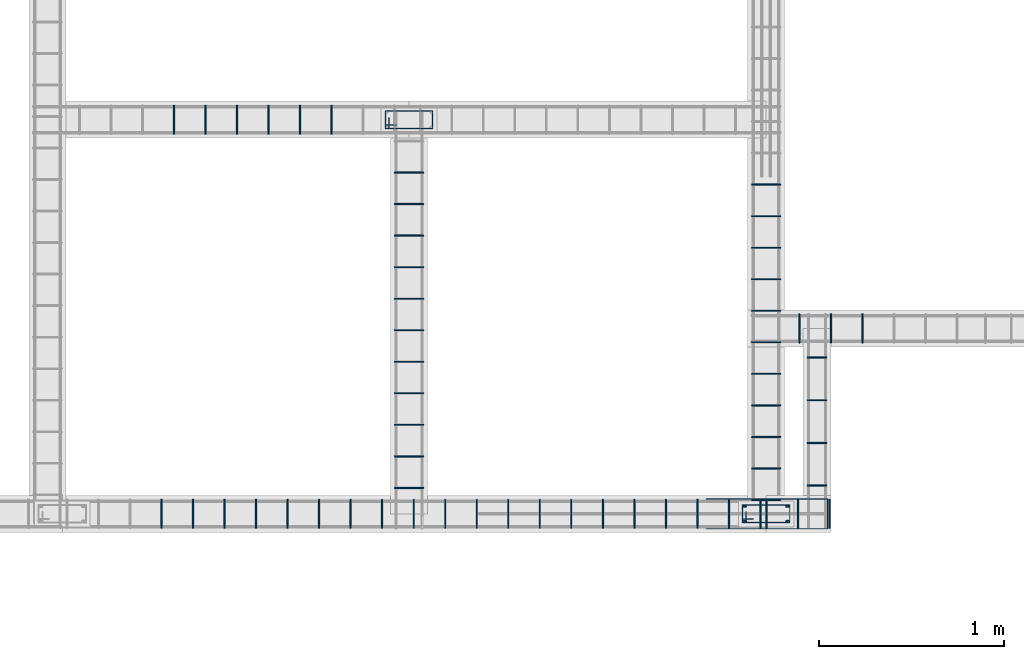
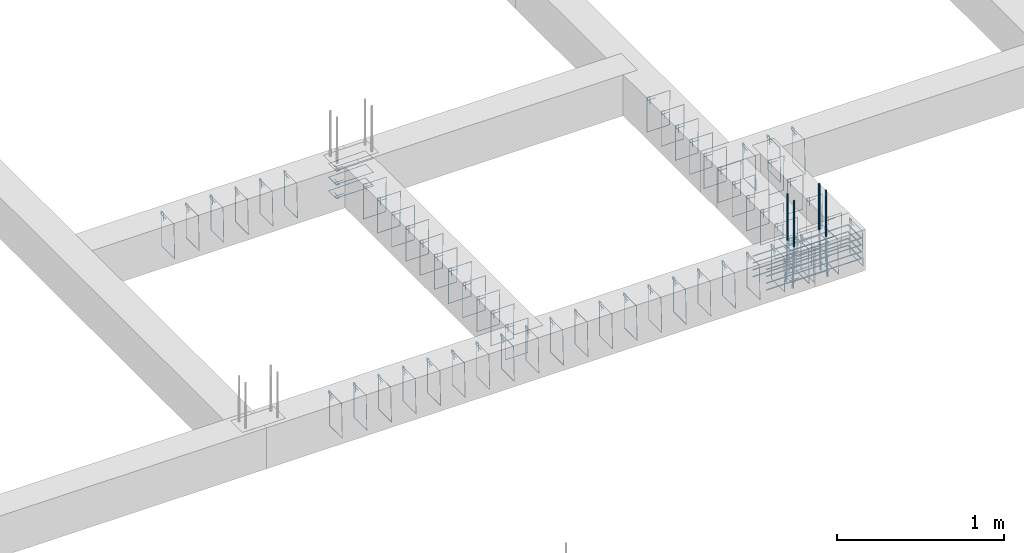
# One storey, part 46 of 150: 72 reinforcing bars.
"""IFC4 building model written with IfcOpenShell, lengths in centimetres."""

import ifcopenshell
import ifcopenshell.guid

model = None  # the IFC model being written
_history = None  # IfcOwnerHistory: only IFC2X3 demands one
_inside = {}  # id of a spatial element -> (the spatial element, [elements in it])
_under = {}  # id of a project, library or spatial element -> (it, [spatial elements below it])
_declared = {}  # id of a project -> (the project, [libraries it declares])
_typed = {}  # id of a type object -> (the type object, [elements of that type])
_made_of = {}  # id of a material, layer set ... -> (it, [elements and type objects made of it])


def new_model(schema):
    """Start an empty IFC model of exactly this schema.

    Asked for "IFC4X3", IfcOpenShell would pick the latest addendum, in which some entities
    have other attributes; the version numbers below select the first issue.
    IFC2X3 requires an IfcOwnerHistory on every rooted entity: one is made here for all.
    """
    global model, _history
    if schema == "IFC4X3":
        model = ifcopenshell.file(schema_version=(4, 3, 0, 0))
    else:
        model = ifcopenshell.file(schema=schema)
    _inside.clear()
    _under.clear()
    _declared.clear()
    _typed.clear()
    _made_of.clear()
    _history = None
    if model.schema == "IFC2X3":
        org = make("IfcOrganization", Name="unknown")
        user = make(
            "IfcPersonAndOrganization",
            ThePerson=make("IfcPerson", FamilyName="unknown"),
            TheOrganization=org,
        )
        app = make(
            "IfcApplication",
            ApplicationDeveloper=org,
            Version="unknown",
            ApplicationFullName="unknown",
            ApplicationIdentifier="unknown",
        )
        _history = make(
            "IfcOwnerHistory",
            OwningUser=user,
            OwningApplication=app,
            ChangeAction="ADDED",
            CreationDate=0,
        )
    return model


def make(cls, **values):
    """One entity of the class cls with the attributes given. An attribute that is None is left unset."""
    return model.create_entity(
        cls, **{name: value for name, value in values.items() if value is not None}
    )


def entity(cls, *values):
    """Any entity or typed value of the class cls, its attributes in the order of the schema. None: left unset."""
    e = model.create_entity(cls)
    for i, value in enumerate(values):
        if value is not None:
            e[i] = value
    return e


def rooted(cls, **values):
    """An entity with a GlobalId (a new one), such as an element, a storey or a relation."""
    return make(cls, GlobalId=ifcopenshell.guid.new(), OwnerHistory=_history, **values)


def si_unit(unit_type, name, prefix=None):
    """IfcSIUnit, for example si_unit("LENGTHUNIT", "METRE", prefix="MILLI")."""
    return make("IfcSIUnit", UnitType=unit_type, Prefix=prefix, Name=name)


def derived_unit(unit_type, elements):
    """IfcDerivedUnit: a product of units, each with its exponent."""
    return make(
        "IfcDerivedUnit",
        Elements=[
            make("IfcDerivedUnitElement", Unit=unit, Exponent=power)
            for unit, power in elements
        ],
        UnitType=unit_type,
    )


def assignment(units):
    """IfcUnitAssignment: the units of a project."""
    return None if units is None else make("IfcUnitAssignment", Units=units)


def point(xyz):
    """IfcCartesianPoint."""
    return None if xyz is None else make("IfcCartesianPoint", Coordinates=xyz)


def direction(xyz):
    """IfcDirection."""
    return None if xyz is None else make("IfcDirection", DirectionRatios=xyz)


def frame(location, z_axis=None, x_axis=None):
    """IfcAxis2Placement3D, a coordinate frame: its origin and axes. An axis left out is left unset."""
    return make(
        "IfcAxis2Placement3D",
        Location=point(location),
        Axis=direction(z_axis),
        RefDirection=direction(x_axis),
    )


def origin_with_axes():
    """The frame at (0, 0, 0) with the z axis (0, 0, 1) and the x axis (1, 0, 0) written out."""
    return frame((0.0, 0.0, 0.0), z_axis=(0.0, 0.0, 1.0), x_axis=(1.0, 0.0, 0.0))


def place(relative_to, where):
    """IfcLocalPlacement: puts the frame where relative to a parent placement (None: the world)."""
    return make(
        "IfcLocalPlacement", PlacementRelTo=relative_to, RelativePlacement=where
    )


def context(
    kind, dimensions, precision=None, world=None, true_north=None, identifier=None
):
    """IfcGeometricRepresentationContext, for example the 3D "Model" context."""
    return make(
        "IfcGeometricRepresentationContext",
        ContextIdentifier=identifier,
        ContextType=kind,
        CoordinateSpaceDimension=dimensions,
        Precision=precision,
        WorldCoordinateSystem=world,
        TrueNorth=true_north,
    )


def project(units=None, contexts=None):
    """IfcProject with its units and contexts."""
    return rooted(
        "IfcProject",
        Name="project",
        RepresentationContexts=contexts,
        UnitsInContext=assignment(units),
    )


def spatial(cls, under=None, at=None, **own):
    """A site, building, storey or space (cls), placed at a placement, below another one or the project."""
    s = rooted(cls, ObjectPlacement=at, **own)
    if under is not None:
        _under.setdefault(under.id(), (under, []))[1].append(s)
    return s


def shape(context_of_items, identifier, shape_type, items):
    """IfcShapeRepresentation: the items that make up one representation, for example the "Body"."""
    return make(
        "IfcShapeRepresentation",
        ContextOfItems=context_of_items,
        RepresentationIdentifier=identifier,
        RepresentationType=shape_type,
        Items=items,
    )


def source(mapping_origin, context_of_items, identifier, shape_type, items):
    """IfcRepresentationMap: a shape defined once, which mapped items show again and again."""
    return make(
        "IfcRepresentationMap",
        MappingOrigin=mapping_origin,
        MappedRepresentation=shape(context_of_items, identifier, shape_type, items),
    )


def transform(
    local_origin,
    x_axis=None,
    y_axis=None,
    z_axis=None,
    scale=None,
    scale2=None,
    scale3=None,
    uniform=True,
):
    """IfcCartesianTransformationOperator3D, or its non-uniform kind. x_axis, y_axis, z_axis: its Axis1, 2, 3."""
    if uniform:
        return make(
            "IfcCartesianTransformationOperator3D",
            Axis1=direction(x_axis),
            Axis2=direction(y_axis),
            LocalOrigin=point(local_origin),
            Scale=scale,
            Axis3=direction(z_axis),
        )
    return make(
        "IfcCartesianTransformationOperator3DnonUniform",
        Axis1=direction(x_axis),
        Axis2=direction(y_axis),
        LocalOrigin=point(local_origin),
        Scale=scale,
        Axis3=direction(z_axis),
        Scale2=scale2,
        Scale3=scale3,
    )


def mapped(mapping_source, mapping_target):
    """IfcMappedItem: shows the shape of a source again, moved by a transform."""
    return make(
        "IfcMappedItem", MappingSource=mapping_source, MappingTarget=mapping_target
    )


def made_of(thing, what):
    """Note that an element or type object is made of a material, layer set ...; save() writes the relation."""
    if what is not None:
        _made_of.setdefault(what.id(), (what, []))[1].append(thing)
    return thing


def element(
    cls,
    number,
    at=None,
    inside=None,
    cuts=None,
    type_object=None,
    material=None,
    context=None,
    identifier="Body",
    shape_type=None,
    held_by="IfcProductDefinitionShape",
    body=None,
    shapes=None,
    **own,
):
    """One element of the class cls, such as IfcWall. Its Tag is "e" and its number.

    at: its placement. inside: the storey or other place that contains it. cuts: it is an
    opening in that element (IfcRelVoidsElement). A single representation is given by context,
    identifier, shape_type and body (its items); several are given by shapes. held_by: the class
    of the entity that holds the representations. save() writes the other relations.
    """
    e = rooted(cls, Tag="e%d" % number, ObjectPlacement=at, **own)
    if body is not None:
        shapes = [shape(context, identifier, shape_type, body)]
    if shapes is not None:
        e.Representation = make(held_by, Representations=shapes)
    if inside is not None:
        _inside.setdefault(inside.id(), (inside, []))[1].append(e)
    if cuts is not None:
        rooted(
            "IfcRelVoidsElement", RelatingBuildingElement=cuts, RelatedOpeningElement=e
        )
    if type_object is not None:
        _typed.setdefault(type_object.id(), (type_object, []))[1].append(e)
    return made_of(e, material)


def aggregate(whole, parts):
    """IfcRelAggregates: a whole, such as a stair, and the parts it consists of."""
    return rooted("IfcRelAggregates", RelatingObject=whole, RelatedObjects=parts)


def save(model, path):
    """Write the relations noted so far, then the file.

    IfcRelAggregates (storeys below a building ...), IfcRelContainedInSpatialStructure (elements
    in a storey), IfcRelDefinesByType, IfcRelAssociatesMaterial and IfcRelDeclares: one each for
    every whole, place, type object, material and project.
    """
    for whole, parts in _under.values():
        aggregate(whole, parts)
    for where, things in _inside.values():
        rooted(
            "IfcRelContainedInSpatialStructure",
            RelatedElements=things,
            RelatingStructure=where,
        )
    for kind, things in _typed.values():
        rooted("IfcRelDefinesByType", RelatedObjects=things, RelatingType=kind)
    for what, things in _made_of.values():
        rooted("IfcRelAssociatesMaterial", RelatedObjects=things, RelatingMaterial=what)
    for by, libraries in _declared.values():
        rooted("IfcRelDeclares", RelatingContext=by, RelatedDefinitions=libraries)
    model.write(path)


model = new_model("IFC4")

# Units and contexts
model_context = context("Model", 3, precision=1e-05, world=origin_with_axes(), identifier="Body")
ifc_project = project(units=[si_unit("LENGTHUNIT", "METRE", prefix="CENTI"), si_unit("VOLUMEUNIT", "CUBIC_METRE"), si_unit("AREAUNIT", "SQUARE_METRE"), si_unit("POWERUNIT", "WATT"), si_unit("LUMINOUSFLUXUNIT", "LUMEN"), si_unit("ELECTRICCURRENTUNIT", "AMPERE"), si_unit("PRESSUREUNIT", "PASCAL", prefix="KILO"), si_unit("MASSUNIT", "GRAM", prefix="KILO"), si_unit("PLANEANGLEUNIT", "RADIAN"), derived_unit("VOLUMETRICFLOWRATEUNIT", [(si_unit("LENGTHUNIT", "METRE"), 3), (si_unit("TIMEUNIT", "SECOND"), -1)])], contexts=[model_context])

# Site, building, storey
site_placement = place(None, frame((-4000.0, 0.0, 0.0), z_axis=(0.0, 0.0, 1.0), x_axis=(1.0, 0.0, 0.0)))
site = spatial("IfcSite", under=ifc_project, at=site_placement, Name="PADRÃO")
building_placement = place(site_placement, frame((0.0, 0.0, -14.0)))
building = spatial("IfcBuilding", under=site, at=building_placement, Name="CRECHE PRÉ-ESCOLA TIPO 2")
placement = place(building_placement, origin_with_axes())
storey_placement = place(placement, frame((0.0, 0.0, 30.0), z_axis=(0.0, 0.0, 1.0), x_axis=(1.0, 0.0, 0.0)))
storey = spatial("IfcBuildingStorey", under=building, at=storey_placement, Name="VIGA BALDRAME", CompositionType="ELEMENT", Elevation=16.0)

# Reinforcing bars
shared_shape_1 = source(origin_with_axes(), model_context, "Body", "AdvancedSweptSolid", [
    entity("IfcSweptDiskSolid", entity("IfcCompositeCurve", [entity("IfcCompositeCurveSegment", "CONTINUOUS", True, entity("IfcPolyline", [entity("IfcCartesianPoint", [4.25, 21.75, 0.0]), entity("IfcCartesianPoint", [4.25, 27.75, 0.0])])), entity("IfcCompositeCurveSegment", "CONTINUOUS", True, entity("IfcPolyline", [entity("IfcCartesianPoint", [4.25, 27.75, 0.0]), entity("IfcCartesianPoint", [2.25, 27.75, 0.0])])), entity("IfcCompositeCurveSegment", "CONTINUOUS", True, entity("IfcPolyline", [entity("IfcCartesianPoint", [2.25, 27.75, 0.0]), entity("IfcCartesianPoint", [2.25, 2.25, 0.0])])), entity("IfcCompositeCurveSegment", "CONTINUOUS", True, entity("IfcPolyline", [entity("IfcCartesianPoint", [2.25, 2.25, 0.0]), entity("IfcCartesianPoint", [11.75, 2.25, 0.0])])), entity("IfcCompositeCurveSegment", "CONTINUOUS", True, entity("IfcPolyline", [entity("IfcCartesianPoint", [11.75, 2.25, 0.0]), entity("IfcCartesianPoint", [11.75, 27.75, -0.5])])), entity("IfcCompositeCurveSegment", "CONTINUOUS", True, entity("IfcPolyline", [entity("IfcCartesianPoint", [11.75, 27.75, -0.5]), entity("IfcCartesianPoint", [2.25, 27.75, -0.5])])), entity("IfcCompositeCurveSegment", "CONTINUOUS", True, entity("IfcPolyline", [entity("IfcCartesianPoint", [2.25, 27.75, -0.5]), entity("IfcCartesianPoint", [2.25, 25.75, -0.5])])), entity("IfcCompositeCurveSegment", "CONTINUOUS", True, entity("IfcPolyline", [entity("IfcCartesianPoint", [2.25, 25.75, -0.5]), entity("IfcCartesianPoint", [8.25, 25.75, -0.5])]))], False), 0.25),
])
for number, where, z_axis, x_axis, name in (
    (1, (3151.0, 408.01, -5.0), (0.0, 0.0, 1.0), (0.0, 1.0, 0.0), "P148 - Estribo"),
    (2, (3151.0, 408.01, -25.0), (0.0, 0.0, 1.0), (0.0, 1.0, 0.0), "P148 - Estribo"),
    (3, (3151.0, 408.01, -15.0), (0.0, 0.0, 1.0), (0.0, 1.0, 0.0), "P148 - Estribo"),
):
    element("IfcReinforcingBar", number, at=place(storey_placement, frame(where, z_axis=z_axis, x_axis=x_axis)), inside=storey, Name=name, BarLength=0.0, CrossSectionArea=1.9634954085e-05, NominalDiameter=0.5, PredefinedType="MAIN", context=model_context, shape_type="MappedRepresentation", body=[
        mapped(shared_shape_1, transform((0.0, 0.0, 0.0), scale=1.0)),
    ])
shared_shape_2 = source(origin_with_axes(), model_context, "Body", "AdvancedSweptSolid", [
    entity("IfcSweptDiskSolid", entity("IfcCompositeCurve", [entity("IfcCompositeCurveSegment", "CONTINUOUS", True, entity("IfcPolyline", [entity("IfcCartesianPoint", [4.25, 21.75, 0.0]), entity("IfcCartesianPoint", [4.25, 27.75, 0.0])])), entity("IfcCompositeCurveSegment", "CONTINUOUS", True, entity("IfcPolyline", [entity("IfcCartesianPoint", [4.25, 27.75, 0.0]), entity("IfcCartesianPoint", [2.25, 27.75, 0.0])])), entity("IfcCompositeCurveSegment", "CONTINUOUS", True, entity("IfcPolyline", [entity("IfcCartesianPoint", [2.25, 27.75, 0.0]), entity("IfcCartesianPoint", [2.25, 2.25, 0.0])])), entity("IfcCompositeCurveSegment", "CONTINUOUS", True, entity("IfcPolyline", [entity("IfcCartesianPoint", [2.25, 2.25, 0.0]), entity("IfcCartesianPoint", [11.75, 2.25, 0.0])])), entity("IfcCompositeCurveSegment", "CONTINUOUS", True, entity("IfcPolyline", [entity("IfcCartesianPoint", [11.75, 2.25, 0.0]), entity("IfcCartesianPoint", [11.75, 27.75, -0.5])])), entity("IfcCompositeCurveSegment", "CONTINUOUS", True, entity("IfcPolyline", [entity("IfcCartesianPoint", [11.75, 27.75, -0.5]), entity("IfcCartesianPoint", [2.25, 27.75, -0.5])])), entity("IfcCompositeCurveSegment", "CONTINUOUS", True, entity("IfcPolyline", [entity("IfcCartesianPoint", [2.25, 27.75, -0.5]), entity("IfcCartesianPoint", [2.25, 25.75, -0.5])])), entity("IfcCompositeCurveSegment", "CONTINUOUS", True, entity("IfcPolyline", [entity("IfcCartesianPoint", [2.25, 25.75, -0.5]), entity("IfcCartesianPoint", [8.25, 25.75, -0.5])]))], False), 0.25),
])
for number, where, z_axis, x_axis, name in (
    (4, (2958.45, 620.58, -5.0), (0.0, 0.0, 1.0), (0.0, 1.0, 0.0), "P134 - Estribo"),
    (5, (2958.45, 620.58, -15.0), (0.0, 0.0, 1.0), (0.0, 1.0, 0.0), "P134 - Estribo"),
    (6, (2958.45, 620.58, -25.0), (0.0, 0.0, 1.0), (0.0, 1.0, 0.0), "P134 - Estribo"),
):
    element("IfcReinforcingBar", number, at=place(storey_placement, frame(where, z_axis=z_axis, x_axis=x_axis)), inside=storey, Name=name, BarLength=0.0, CrossSectionArea=1.9634954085e-05, NominalDiameter=0.5, PredefinedType="MAIN", context=model_context, shape_type="MappedRepresentation", body=[
        mapped(shared_shape_2, transform((0.0, 0.0, 0.0), scale=1.0)),
    ])
shared_shape_3 = source(origin_with_axes(), model_context, "Body", "AdvancedSweptSolid", [
    entity("IfcSweptDiskSolid", entity("IfcCompositeCurve", [entity("IfcCompositeCurveSegment", "CONTINUOUS", True, entity("IfcPolyline", [entity("IfcCartesianPoint", [2.0, -6.0, 0.0]), entity("IfcCartesianPoint", [2.0, 0.0, 0.0])])), entity("IfcCompositeCurveSegment", "CONTINUOUS", True, entity("IfcPolyline", [entity("IfcCartesianPoint", [2.0, 0.0, 0.0]), entity("IfcCartesianPoint", [0.0, 0.0, 0.0])])), entity("IfcCompositeCurveSegment", "CONTINUOUS", True, entity("IfcPolyline", [entity("IfcCartesianPoint", [0.0, 0.0, 0.0]), entity("IfcCartesianPoint", [0.0, -25.5, 0.0])])), entity("IfcCompositeCurveSegment", "CONTINUOUS", True, entity("IfcPolyline", [entity("IfcCartesianPoint", [0.0, -25.5, 0.0]), entity("IfcCartesianPoint", [10.5, -25.5, 0.0])])), entity("IfcCompositeCurveSegment", "CONTINUOUS", True, entity("IfcPolyline", [entity("IfcCartesianPoint", [10.5, -25.5, 0.0]), entity("IfcCartesianPoint", [10.5, 0.0, 0.5])])), entity("IfcCompositeCurveSegment", "CONTINUOUS", True, entity("IfcPolyline", [entity("IfcCartesianPoint", [10.5, 0.0, 0.5]), entity("IfcCartesianPoint", [0.0, 0.0, 0.5])])), entity("IfcCompositeCurveSegment", "CONTINUOUS", True, entity("IfcPolyline", [entity("IfcCartesianPoint", [0.0, 0.0, 0.5]), entity("IfcCartesianPoint", [0.0, -2.0, 0.5])])), entity("IfcCompositeCurveSegment", "CONTINUOUS", True, entity("IfcPolyline", [entity("IfcCartesianPoint", [0.0, -2.0, 0.5]), entity("IfcCartesianPoint", [6.0, -2.0, 0.5])]))], False), 0.25),
])
for number, where, z_axis, x_axis, name in (
    (7, (3158.23, 499.51, -2.25), (0.0, -1.0, 0.0), (1.0, 0.0, 0.0), "V215 - Estribo"),
    (8, (3158.23, 430.51, -2.25), (0.0, -1.0, 0.0), (1.0, 0.0, 0.0), "V215 - Estribo"),
    (9, (3158.23, 453.51, -2.25), (0.0, -1.0, 0.0), (1.0, 0.0, 0.0), "V215 - Estribo"),
    (10, (3158.23, 476.51, -2.25), (0.0, -1.0, 0.0), (1.0, 0.0, 0.0), "V215 - Estribo"),
):
    element("IfcReinforcingBar", number, at=place(storey_placement, frame(where, z_axis=z_axis, x_axis=x_axis)), inside=storey, Name=name, BarLength=0.0, CrossSectionArea=1.9634954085e-05, NominalDiameter=0.5, PredefinedType="MAIN", context=model_context, shape_type="MappedRepresentation", body=[
        mapped(shared_shape_3, transform((0.0, 0.0, 0.0), scale=1.0)),
    ])
shared_shape_4 = source(origin_with_axes(), model_context, "Body", "AdvancedSweptSolid", [
    entity("IfcSweptDiskSolid", entity("IfcCompositeCurve", [entity("IfcCompositeCurveSegment", "CONTINUOUS", True, entity("IfcPolyline", [entity("IfcCartesianPoint", [2.0, -6.0, 0.0]), entity("IfcCartesianPoint", [2.0, 0.0, 0.0])])), entity("IfcCompositeCurveSegment", "CONTINUOUS", True, entity("IfcPolyline", [entity("IfcCartesianPoint", [2.0, 0.0, 0.0]), entity("IfcCartesianPoint", [0.0, 0.0, 0.0])])), entity("IfcCompositeCurveSegment", "CONTINUOUS", True, entity("IfcPolyline", [entity("IfcCartesianPoint", [0.0, 0.0, 0.0]), entity("IfcCartesianPoint", [0.0, -25.5, 0.0])])), entity("IfcCompositeCurveSegment", "CONTINUOUS", True, entity("IfcPolyline", [entity("IfcCartesianPoint", [0.0, -25.5, 0.0]), entity("IfcCartesianPoint", [15.5, -25.5, 0.0])])), entity("IfcCompositeCurveSegment", "CONTINUOUS", True, entity("IfcPolyline", [entity("IfcCartesianPoint", [15.5, -25.5, 0.0]), entity("IfcCartesianPoint", [15.5, 0.0, 0.5])])), entity("IfcCompositeCurveSegment", "CONTINUOUS", True, entity("IfcPolyline", [entity("IfcCartesianPoint", [15.5, 0.0, 0.5]), entity("IfcCartesianPoint", [0.0, 0.0, 0.5])])), entity("IfcCompositeCurveSegment", "CONTINUOUS", True, entity("IfcPolyline", [entity("IfcCartesianPoint", [0.0, 0.0, 0.5]), entity("IfcCartesianPoint", [0.0, -2.0, 0.5])])), entity("IfcCompositeCurveSegment", "CONTINUOUS", True, entity("IfcPolyline", [entity("IfcCartesianPoint", [0.0, -2.0, 0.5]), entity("IfcCartesianPoint", [6.0, -2.0, 0.5])]))], False), 0.25),
])
for number, where, z_axis, x_axis, name in (
    (11, (3128.25, 422.795, -2.25), (0.0, -1.0, 0.0), (1.0, 0.0, 0.0), "V216 - Estribo"),
    (12, (3128.25, 439.795, -2.25), (0.0, -1.0, 0.0), (1.0, 0.0, 0.0), "V216 - Estribo"),
    (13, (3128.25, 456.795, -2.25), (0.0, -1.0, 0.0), (1.0, 0.0, 0.0), "V216 - Estribo"),
    (14, (3128.25, 473.795, -2.25), (0.0, -1.0, 0.0), (1.0, 0.0, 0.0), "V216 - Estribo"),
    (15, (3128.25, 490.795, -2.25), (0.0, -1.0, 0.0), (1.0, 0.0, 0.0), "V216 - Estribo"),
    (16, (3128.25, 507.795, -2.25), (0.0, -1.0, 0.0), (1.0, 0.0, 0.0), "V216 - Estribo"),
    (17, (3128.25, 524.795, -2.25), (0.0, -1.0, 0.0), (1.0, 0.0, 0.0), "V216 - Estribo"),
    (18, (3128.25, 541.795, -2.25), (0.0, -1.0, 0.0), (1.0, 0.0, 0.0), "V216 - Estribo"),
    (19, (3128.25, 558.795, -2.25), (0.0, -1.0, 0.0), (1.0, 0.0, 0.0), "V216 - Estribo"),
    (20, (3128.25, 575.795, -2.25), (0.0, -1.0, 0.0), (1.0, 0.0, 0.0), "V216 - Estribo"),
    (21, (3128.25, 592.795, -2.25), (0.0, -1.0, 0.0), (1.0, 0.0, 0.0), "V216 - Estribo"),
):
    element("IfcReinforcingBar", number, at=place(storey_placement, frame(where, z_axis=z_axis, x_axis=x_axis)), inside=storey, Name=name, BarLength=0.0, CrossSectionArea=1.9634954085e-05, NominalDiameter=0.5, PredefinedType="MAIN", context=model_context, shape_type="MappedRepresentation", body=[
        mapped(shared_shape_4, transform((0.0, 0.0, 0.0), scale=1.0)),
    ])
shared_shape_5 = source(origin_with_axes(), model_context, "Body", "AdvancedSweptSolid", [
    entity("IfcSweptDiskSolid", entity("IfcCompositeCurve", [entity("IfcCompositeCurveSegment", "CONTINUOUS", True, entity("IfcPolyline", [entity("IfcCartesianPoint", [2.0, -6.0, 0.0]), entity("IfcCartesianPoint", [2.0, 0.0, 0.0])])), entity("IfcCompositeCurveSegment", "CONTINUOUS", True, entity("IfcPolyline", [entity("IfcCartesianPoint", [2.0, 0.0, 0.0]), entity("IfcCartesianPoint", [0.0, 0.0, 0.0])])), entity("IfcCompositeCurveSegment", "CONTINUOUS", True, entity("IfcPolyline", [entity("IfcCartesianPoint", [0.0, 0.0, 0.0]), entity("IfcCartesianPoint", [0.0, -25.5, 0.0])])), entity("IfcCompositeCurveSegment", "CONTINUOUS", True, entity("IfcPolyline", [entity("IfcCartesianPoint", [0.0, -25.5, 0.0]), entity("IfcCartesianPoint", [15.5, -25.5, 0.0])])), entity("IfcCompositeCurveSegment", "CONTINUOUS", True, entity("IfcPolyline", [entity("IfcCartesianPoint", [15.5, -25.5, 0.0]), entity("IfcCartesianPoint", [15.5, 0.0, 0.5])])), entity("IfcCompositeCurveSegment", "CONTINUOUS", True, entity("IfcPolyline", [entity("IfcCartesianPoint", [15.5, 0.0, 0.5]), entity("IfcCartesianPoint", [0.0, 0.0, 0.5])])), entity("IfcCompositeCurveSegment", "CONTINUOUS", True, entity("IfcPolyline", [entity("IfcCartesianPoint", [0.0, 0.0, 0.5]), entity("IfcCartesianPoint", [0.0, -2.0, 0.5])])), entity("IfcCompositeCurveSegment", "CONTINUOUS", True, entity("IfcPolyline", [entity("IfcCartesianPoint", [0.0, -2.0, 0.5]), entity("IfcCartesianPoint", [6.0, -2.0, 0.5])]))], False), 0.25),
])
for number, where, z_axis, x_axis, name in (
    (22, (2861.23, 422.76, -2.25), (-1.0, 0.0, 0.0), (0.0, -1.0, 0.0), "V155 - Estribo"),
    (23, (2844.23, 422.76, -2.25), (-1.0, 0.0, 0.0), (0.0, -1.0, 0.0), "V155 - Estribo"),
    (24, (2827.23, 422.76, -2.25), (-1.0, 0.0, 0.0), (0.0, -1.0, 0.0), "V155 - Estribo"),
    (25, (2810.23, 422.76, -2.25), (-1.0, 0.0, 0.0), (0.0, -1.0, 0.0), "V155 - Estribo"),
    (26, (2878.23, 422.76, -2.25), (-1.0, 0.0, 0.0), (0.0, -1.0, 0.0), "V155 - Estribo"),
    (27, (2895.23, 422.76, -2.25), (-1.0, 0.0, 0.0), (0.0, -1.0, 0.0), "V155 - Estribo"),
    (28, (2912.23, 422.76, -2.25), (-1.0, 0.0, 0.0), (0.0, -1.0, 0.0), "V155 - Estribo"),
    (29, (2963.23, 422.76, -2.25), (-1.0, 0.0, 0.0), (0.0, -1.0, 0.0), "V155 - Estribo"),
    (30, (2946.23, 422.76, -2.25), (-1.0, 0.0, 0.0), (0.0, -1.0, 0.0), "V155 - Estribo"),
    (31, (3082.23, 422.76, -2.25), (-1.0, 0.0, 0.0), (0.0, -1.0, 0.0), "V155 - Estribo"),
    (32, (3065.23, 422.76, -2.25), (-1.0, 0.0, 0.0), (0.0, -1.0, 0.0), "V155 - Estribo"),
    (33, (2929.23, 422.76, -2.25), (-1.0, 0.0, 0.0), (0.0, -1.0, 0.0), "V155 - Estribo"),
    (34, (3116.23, 422.76, -2.25), (-1.0, 0.0, 0.0), (0.0, -1.0, 0.0), "V155 - Estribo"),
    (35, (3099.23, 422.76, -2.25), (-1.0, 0.0, 0.0), (0.0, -1.0, 0.0), "V155 - Estribo"),
    (36, (2980.23, 422.76, -2.25), (-1.0, 0.0, 0.0), (0.0, -1.0, 0.0), "V155 - Estribo"),
    (37, (2997.23, 422.76, -2.25), (-1.0, 0.0, 0.0), (0.0, -1.0, 0.0), "V155 - Estribo"),
    (38, (3133.23, 422.76, -2.25), (-1.0, 0.0, 0.0), (0.0, -1.0, 0.0), "V155 - Estribo"),
    (39, (3031.23, 422.76, -2.25), (-1.0, 0.0, 0.0), (0.0, -1.0, 0.0), "V155 - Estribo"),
    (40, (3048.23, 422.76, -2.25), (-1.0, 0.0, 0.0), (0.0, -1.0, 0.0), "V155 - Estribo"),
    (41, (3014.23, 422.76, -2.25), (-1.0, 0.0, 0.0), (0.0, -1.0, 0.0), "V155 - Estribo"),
):
    element("IfcReinforcingBar", number, at=place(storey_placement, frame(where, z_axis=z_axis, x_axis=x_axis)), inside=storey, Name=name, BarLength=0.0, CrossSectionArea=1.9634954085e-05, NominalDiameter=0.5, PredefinedType="MAIN", context=model_context, shape_type="MappedRepresentation", body=[
        mapped(shared_shape_5, transform((0.0, 0.0, 0.0), scale=1.0)),
    ])
shared_shape_6 = source(origin_with_axes(), model_context, "Body", "AdvancedSweptSolid", [
    entity("IfcSweptDiskSolid", entity("IfcCompositeCurve", [entity("IfcCompositeCurveSegment", "CONTINUOUS", True, entity("IfcPolyline", [entity("IfcCartesianPoint", [2.0, -6.0, 0.0]), entity("IfcCartesianPoint", [2.0, 0.0, 0.0])])), entity("IfcCompositeCurveSegment", "CONTINUOUS", True, entity("IfcPolyline", [entity("IfcCartesianPoint", [2.0, 0.0, 0.0]), entity("IfcCartesianPoint", [0.0, 0.0, 0.0])])), entity("IfcCompositeCurveSegment", "CONTINUOUS", True, entity("IfcPolyline", [entity("IfcCartesianPoint", [0.0, 0.0, 0.0]), entity("IfcCartesianPoint", [0.0, -25.5, 0.0])])), entity("IfcCompositeCurveSegment", "CONTINUOUS", True, entity("IfcPolyline", [entity("IfcCartesianPoint", [0.0, -25.5, 0.0]), entity("IfcCartesianPoint", [15.5, -25.5, 0.0])])), entity("IfcCompositeCurveSegment", "CONTINUOUS", True, entity("IfcPolyline", [entity("IfcCartesianPoint", [15.5, -25.5, 0.0]), entity("IfcCartesianPoint", [15.5, 0.0, 0.5])])), entity("IfcCompositeCurveSegment", "CONTINUOUS", True, entity("IfcPolyline", [entity("IfcCartesianPoint", [15.5, 0.0, 0.5]), entity("IfcCartesianPoint", [0.0, 0.0, 0.5])])), entity("IfcCompositeCurveSegment", "CONTINUOUS", True, entity("IfcPolyline", [entity("IfcCartesianPoint", [0.0, 0.0, 0.5]), entity("IfcCartesianPoint", [0.0, -2.0, 0.5])])), entity("IfcCompositeCurveSegment", "CONTINUOUS", True, entity("IfcPolyline", [entity("IfcCartesianPoint", [0.0, -2.0, 0.5]), entity("IfcCartesianPoint", [6.0, -2.0, 0.5])]))], False), 0.25),
])
for number, where, z_axis, x_axis, name in (
    (42, (3170.49, 422.76, -2.25), (-1.0, 0.0, 0.0), (0.0, -1.0, 0.0), "V155 - Estribo"),
    (43, (3153.49, 422.76, -2.25), (-1.0, 0.0, 0.0), (0.0, -1.0, 0.0), "V155 - Estribo"),
    (44, (3136.49, 422.76, -2.25), (-1.0, 0.0, 0.0), (0.0, -1.0, 0.0), "V155 - Estribo"),
):
    element("IfcReinforcingBar", number, at=place(storey_placement, frame(where, z_axis=z_axis, x_axis=x_axis)), inside=storey, Name=name, BarLength=0.0, CrossSectionArea=1.9634954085e-05, NominalDiameter=0.5, PredefinedType="MAIN", context=model_context, shape_type="MappedRepresentation", body=[
        mapped(shared_shape_6, transform((0.0, 0.0, 0.0), scale=1.0)),
    ])
shared_shape_7 = source(origin_with_axes(), model_context, "Body", "AdvancedSweptSolid", [
    entity("IfcSweptDiskSolid", entity("IfcCompositeCurve", [entity("IfcCompositeCurveSegment", "CONTINUOUS", True, entity("IfcPolyline", [entity("IfcCartesianPoint", [0.0, 0.0, 0.0]), entity("IfcCartesianPoint", [65.6813828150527, 0.0, 0.0])])), entity("IfcCompositeCurveSegment", "CONTINUOUS", True, entity("IfcPolyline", [entity("IfcCartesianPoint", [65.6813828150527, 0.0, 0.0]), entity("IfcCartesianPoint", [65.6813828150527, 16.0, 0.0])])), entity("IfcCompositeCurveSegment", "CONTINUOUS", True, entity("IfcPolyline", [entity("IfcCartesianPoint", [65.6813828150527, 16.0, 0.0]), entity("IfcCartesianPoint", [0.0, 16.0, 0.0])]))], False), 0.25),
])
for number, where, z_axis, x_axis, name in (
    (45, (3103.54861718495, 407.01, -16.875), (0.0, 0.0, 1.0), (1.0, 0.0, 0.0), "V155 - Grampo"),
    (46, (3103.54861718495, 407.01, -11.875), (0.0, 0.0, 1.0), (1.0, 0.0, 0.0), "V155 - Grampo"),
    (47, (3103.54861718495, 407.01, -6.875), (0.0, 0.0, 1.0), (1.0, 0.0, 0.0), "V155 - Grampo"),
    (48, (3103.54861718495, 407.01, -21.875), (0.0, 0.0, 1.0), (1.0, 0.0, 0.0), "V155 - Grampo"),
):
    element("IfcReinforcingBar", number, at=place(storey_placement, frame(where, z_axis=z_axis, x_axis=x_axis)), inside=storey, Name=name, BarLength=0.0, CrossSectionArea=1.9634954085e-05, NominalDiameter=0.5, PredefinedType="MAIN", context=model_context, shape_type="MappedRepresentation", body=[
        mapped(shared_shape_7, transform((0.0, 0.0, 0.0), scale=1.0)),
    ])
shared_shape_8 = source(origin_with_axes(), model_context, "Body", "AdvancedSweptSolid", [
    entity("IfcSweptDiskSolid", entity("IfcCompositeCurve", [entity("IfcCompositeCurveSegment", "CONTINUOUS", True, entity("IfcPolyline", [entity("IfcCartesianPoint", [2.0, -6.0, 0.0]), entity("IfcCartesianPoint", [2.0, 0.0, 0.0])])), entity("IfcCompositeCurveSegment", "CONTINUOUS", True, entity("IfcPolyline", [entity("IfcCartesianPoint", [2.0, 0.0, 0.0]), entity("IfcCartesianPoint", [0.0, 0.0, 0.0])])), entity("IfcCompositeCurveSegment", "CONTINUOUS", True, entity("IfcPolyline", [entity("IfcCartesianPoint", [0.0, 0.0, 0.0]), entity("IfcCartesianPoint", [0.0, -25.5, 0.0])])), entity("IfcCompositeCurveSegment", "CONTINUOUS", True, entity("IfcPolyline", [entity("IfcCartesianPoint", [0.0, -25.5, 0.0]), entity("IfcCartesianPoint", [15.5, -25.5, 0.0])])), entity("IfcCompositeCurveSegment", "CONTINUOUS", True, entity("IfcPolyline", [entity("IfcCartesianPoint", [15.5, -25.5, 0.0]), entity("IfcCartesianPoint", [15.5, 0.0, 0.5])])), entity("IfcCompositeCurveSegment", "CONTINUOUS", True, entity("IfcPolyline", [entity("IfcCartesianPoint", [15.5, 0.0, 0.5]), entity("IfcCartesianPoint", [0.0, 0.0, 0.5])])), entity("IfcCompositeCurveSegment", "CONTINUOUS", True, entity("IfcPolyline", [entity("IfcCartesianPoint", [0.0, 0.0, 0.5]), entity("IfcCartesianPoint", [0.0, -2.0, 0.5])])), entity("IfcCompositeCurveSegment", "CONTINUOUS", True, entity("IfcPolyline", [entity("IfcCartesianPoint", [0.0, -2.0, 0.5]), entity("IfcCartesianPoint", [6.0, -2.0, 0.5])]))], False), 0.25),
])
for number, where, z_axis, x_axis, name in (
    (49, (2867.955, 635.33, -2.25), (-1.0, 0.0, 0.0), (0.0, -1.0, 0.0), "V148 - Estribo"),
    (50, (2884.955, 635.33, -2.25), (-1.0, 0.0, 0.0), (0.0, -1.0, 0.0), "V148 - Estribo"),
    (51, (2901.955, 635.33, -2.25), (-1.0, 0.0, 0.0), (0.0, -1.0, 0.0), "V148 - Estribo"),
    (52, (2833.955, 635.33, -2.25), (-1.0, 0.0, 0.0), (0.0, -1.0, 0.0), "V148 - Estribo"),
    (53, (2816.955, 635.33, -2.25), (-1.0, 0.0, 0.0), (0.0, -1.0, 0.0), "V148 - Estribo"),
    (54, (2850.955, 635.33, -2.25), (-1.0, 0.0, 0.0), (0.0, -1.0, 0.0), "V148 - Estribo"),
):
    element("IfcReinforcingBar", number, at=place(storey_placement, frame(where, z_axis=z_axis, x_axis=x_axis)), inside=storey, Name=name, BarLength=0.0, CrossSectionArea=1.9634954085e-05, NominalDiameter=0.5, PredefinedType="MAIN", context=model_context, shape_type="MappedRepresentation", body=[
        mapped(shared_shape_8, transform((0.0, 0.0, 0.0), scale=1.0)),
    ])
shared_shape_9 = source(origin_with_axes(), model_context, "Body", "AdvancedSweptSolid", [
    entity("IfcSweptDiskSolid", entity("IfcCompositeCurve", [entity("IfcCompositeCurveSegment", "CONTINUOUS", True, entity("IfcPolyline", [entity("IfcCartesianPoint", [2.0, -6.0, 0.0]), entity("IfcCartesianPoint", [2.0, 0.0, 0.0])])), entity("IfcCompositeCurveSegment", "CONTINUOUS", True, entity("IfcPolyline", [entity("IfcCartesianPoint", [2.0, 0.0, 0.0]), entity("IfcCartesianPoint", [0.0, 0.0, 0.0])])), entity("IfcCompositeCurveSegment", "CONTINUOUS", True, entity("IfcPolyline", [entity("IfcCartesianPoint", [0.0, 0.0, 0.0]), entity("IfcCartesianPoint", [0.0, -25.5, 0.0])])), entity("IfcCompositeCurveSegment", "CONTINUOUS", True, entity("IfcPolyline", [entity("IfcCartesianPoint", [0.0, -25.5, 0.0]), entity("IfcCartesianPoint", [15.5, -25.5, 0.0])])), entity("IfcCompositeCurveSegment", "CONTINUOUS", True, entity("IfcPolyline", [entity("IfcCartesianPoint", [15.5, -25.5, 0.0]), entity("IfcCartesianPoint", [15.5, 0.0, 0.5])])), entity("IfcCompositeCurveSegment", "CONTINUOUS", True, entity("IfcPolyline", [entity("IfcCartesianPoint", [15.5, 0.0, 0.5]), entity("IfcCartesianPoint", [0.0, 0.0, 0.5])])), entity("IfcCompositeCurveSegment", "CONTINUOUS", True, entity("IfcPolyline", [entity("IfcCartesianPoint", [0.0, 0.0, 0.5]), entity("IfcCartesianPoint", [0.0, -2.0, 0.5])])), entity("IfcCompositeCurveSegment", "CONTINUOUS", True, entity("IfcPolyline", [entity("IfcCartesianPoint", [0.0, -2.0, 0.5]), entity("IfcCartesianPoint", [6.0, -2.0, 0.5])]))], False), 0.25),
])
for number, where, z_axis, x_axis, name in (
    (55, (2935.7, 446.295, -2.25), (0.0, -1.0, 0.0), (1.0, 0.0, 0.0), "V209 - Estribo"),
    (56, (2935.7, 429.295, -2.25), (0.0, -1.0, 0.0), (1.0, 0.0, 0.0), "V209 - Estribo"),
    (57, (2935.7, 497.295, -2.25), (0.0, -1.0, 0.0), (1.0, 0.0, 0.0), "V209 - Estribo"),
    (58, (2935.7, 548.295, -2.25), (0.0, -1.0, 0.0), (1.0, 0.0, 0.0), "V209 - Estribo"),
    (59, (2935.7, 480.295, -2.25), (0.0, -1.0, 0.0), (1.0, 0.0, 0.0), "V209 - Estribo"),
    (60, (2935.7, 531.295, -2.25), (0.0, -1.0, 0.0), (1.0, 0.0, 0.0), "V209 - Estribo"),
    (61, (2935.7, 514.295, -2.25), (0.0, -1.0, 0.0), (1.0, 0.0, 0.0), "V209 - Estribo"),
    (62, (2935.7, 463.295, -2.25), (0.0, -1.0, 0.0), (1.0, 0.0, 0.0), "V209 - Estribo"),
    (63, (2935.7, 565.295, -2.25), (0.0, -1.0, 0.0), (1.0, 0.0, 0.0), "V209 - Estribo"),
    (64, (2935.7, 582.295, -2.25), (0.0, -1.0, 0.0), (1.0, 0.0, 0.0), "V209 - Estribo"),
    (65, (2935.7, 599.295, -2.25), (0.0, -1.0, 0.0), (1.0, 0.0, 0.0), "V209 - Estribo"),
):
    element("IfcReinforcingBar", number, at=place(storey_placement, frame(where, z_axis=z_axis, x_axis=x_axis)), inside=storey, Name=name, BarLength=0.0, CrossSectionArea=1.9634954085e-05, NominalDiameter=0.5, PredefinedType="MAIN", context=model_context, shape_type="MappedRepresentation", body=[
        mapped(shared_shape_9, transform((0.0, 0.0, 0.0), scale=1.0)),
    ])
shared_shape_10 = source(origin_with_axes(), model_context, "Body", "AdvancedSweptSolid", [
    entity("IfcSweptDiskSolid", entity("IfcCompositeCurve", [entity("IfcCompositeCurveSegment", "CONTINUOUS", True, entity("IfcPolyline", [entity("IfcCartesianPoint", [2.0, -6.0, 0.0]), entity("IfcCartesianPoint", [2.0, 0.0, 0.0])])), entity("IfcCompositeCurveSegment", "CONTINUOUS", True, entity("IfcPolyline", [entity("IfcCartesianPoint", [2.0, 0.0, 0.0]), entity("IfcCartesianPoint", [0.0, 0.0, 0.0])])), entity("IfcCompositeCurveSegment", "CONTINUOUS", True, entity("IfcPolyline", [entity("IfcCartesianPoint", [0.0, 0.0, 0.0]), entity("IfcCartesianPoint", [0.0, -25.5, 0.0])])), entity("IfcCompositeCurveSegment", "CONTINUOUS", True, entity("IfcPolyline", [entity("IfcCartesianPoint", [0.0, -25.5, 0.0]), entity("IfcCartesianPoint", [15.5, -25.5, 0.0])])), entity("IfcCompositeCurveSegment", "CONTINUOUS", True, entity("IfcPolyline", [entity("IfcCartesianPoint", [15.5, -25.5, 0.0]), entity("IfcCartesianPoint", [15.5, 0.0, 0.5])])), entity("IfcCompositeCurveSegment", "CONTINUOUS", True, entity("IfcPolyline", [entity("IfcCartesianPoint", [15.5, 0.0, 0.5]), entity("IfcCartesianPoint", [0.0, 0.0, 0.5])])), entity("IfcCompositeCurveSegment", "CONTINUOUS", True, entity("IfcPolyline", [entity("IfcCartesianPoint", [0.0, 0.0, 0.5]), entity("IfcCartesianPoint", [0.0, -2.0, 0.5])])), entity("IfcCompositeCurveSegment", "CONTINUOUS", True, entity("IfcPolyline", [entity("IfcCartesianPoint", [0.0, -2.0, 0.5]), entity("IfcCartesianPoint", [6.0, -2.0, 0.5])]))], False), 0.25),
])
for number, where, z_axis, x_axis, name in (
    (66, (3154.25, 522.76, -2.25), (-1.0, 0.0, 0.0), (0.0, -1.0, 0.0), "V152 - Estribo"),
    (67, (3171.25, 522.76, -2.25), (-1.0, 0.0, 0.0), (0.0, -1.0, 0.0), "V152 - Estribo"),
    (68, (3188.25, 522.76, -2.25), (-1.0, 0.0, 0.0), (0.0, -1.0, 0.0), "V152 - Estribo"),
):
    element("IfcReinforcingBar", number, at=place(storey_placement, frame(where, z_axis=z_axis, x_axis=x_axis)), inside=storey, Name=name, BarLength=0.0, CrossSectionArea=1.9634954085e-05, NominalDiameter=0.5, PredefinedType="MAIN", context=model_context, shape_type="MappedRepresentation", body=[
        mapped(shared_shape_10, transform((0.0, 0.0, 0.0), scale=1.0)),
    ])
reinforcing_bar_1_placement = place(storey_placement, frame((3147.49986122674, 411.01, 33.3573001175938), z_axis=(0.0, 0.0, 1.0), x_axis=(1.0, 0.0, 0.0)))
element("IfcReinforcingBar", 69, at=reinforcing_bar_1_placement, inside=storey, Name="P148 - Longitudinal", BarLength=0.0, CrossSectionArea=7.853981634e-05, NominalDiameter=1.0, PredefinedType="MAIN", context=model_context, shape_type="AdvancedSweptSolid", body=[
    entity("IfcSweptDiskSolid", entity("IfcCompositeCurve", [entity("IfcCompositeCurveSegment", "CONTINUOUS", True, entity("IfcPolyline", [entity("IfcCartesianPoint", [0.500138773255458, 0.0, -63.3573001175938]), entity("IfcCartesianPoint", [-0.499861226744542, 0.0, -33.3573001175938])])), entity("IfcCompositeCurveSegment", "CONTINUOUS", True, entity("IfcPolyline", [entity("IfcCartesianPoint", [-0.499861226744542, 0.0, -33.3573001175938]), entity("IfcCartesianPoint", [-0.499861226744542, 0.0, 0.0])]))], False), 0.5),
])
for number, where, z_axis, x_axis, name in (
    (70, (3124.50013877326, 411.01, 33.3573001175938), (0.0, 0.0, 1.0), (1.0, 0.0, 0.0), "P148 - Longitudinal"),
    (71, (3124.50013877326, 419.01, 33.3573001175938), (0.0, 0.0, 1.0), (1.0, 0.0, 0.0), "P148 - Longitudinal"),
):
    element("IfcReinforcingBar", number, at=place(storey_placement, frame(where, z_axis=z_axis, x_axis=x_axis)), inside=storey, Name=name, BarLength=0.0, CrossSectionArea=7.853981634e-05, NominalDiameter=1.0, PredefinedType="MAIN", context=model_context, shape_type="AdvancedSweptSolid", body=[
        entity("IfcSweptDiskSolid", entity("IfcCompositeCurve", [entity("IfcCompositeCurveSegment", "CONTINUOUS", True, entity("IfcPolyline", [entity("IfcCartesianPoint", [-0.500138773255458, 0.0, -63.3573001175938]), entity("IfcCartesianPoint", [0.499861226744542, 0.0, -33.3573001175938])])), entity("IfcCompositeCurveSegment", "CONTINUOUS", True, entity("IfcPolyline", [entity("IfcCartesianPoint", [0.499861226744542, 0.0, -33.3573001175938]), entity("IfcCartesianPoint", [0.499861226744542, 0.0, 0.0])]))], False), 0.5),
    ])
reinforcing_bar_2_placement = place(storey_placement, frame((3147.49986122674, 419.01, 33.3573001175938), z_axis=(0.0, 0.0, 1.0), x_axis=(1.0, 0.0, 0.0)))
element("IfcReinforcingBar", 72, at=reinforcing_bar_2_placement, inside=storey, Name="P148 - Longitudinal", BarLength=0.0, CrossSectionArea=7.853981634e-05, NominalDiameter=1.0, PredefinedType="MAIN", context=model_context, shape_type="AdvancedSweptSolid", body=[
    entity("IfcSweptDiskSolid", entity("IfcCompositeCurve", [entity("IfcCompositeCurveSegment", "CONTINUOUS", True, entity("IfcPolyline", [entity("IfcCartesianPoint", [0.500138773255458, 0.0, -63.3573001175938]), entity("IfcCartesianPoint", [-0.499861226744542, 0.0, -33.3573001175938])])), entity("IfcCompositeCurveSegment", "CONTINUOUS", True, entity("IfcPolyline", [entity("IfcCartesianPoint", [-0.499861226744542, 0.0, -33.3573001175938]), entity("IfcCartesianPoint", [-0.499861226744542, 0.0, 0.0])]))], False), 0.5),
])

save(model, "model.ifc")
